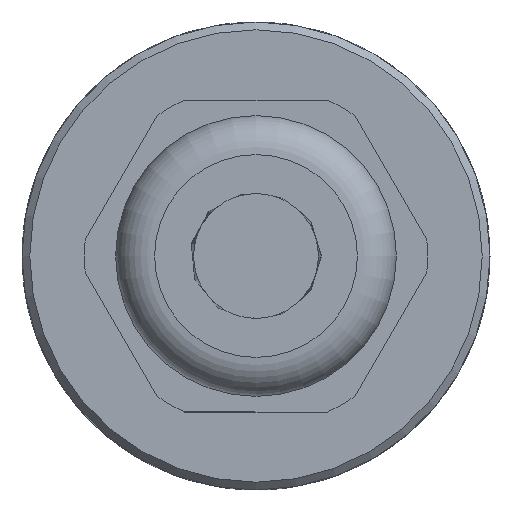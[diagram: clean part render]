
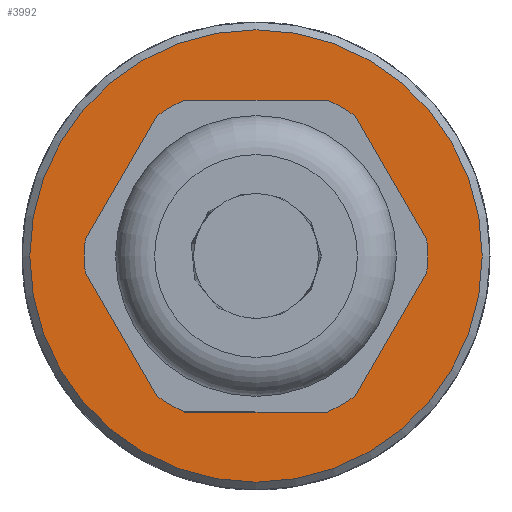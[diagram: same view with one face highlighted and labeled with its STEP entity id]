
A CAD part, left-side view. The second image highlights one B-rep face of the part: STEP entity #3992.
In plain terms, the highlighted planar face has unit normal (-1, 0, 0).
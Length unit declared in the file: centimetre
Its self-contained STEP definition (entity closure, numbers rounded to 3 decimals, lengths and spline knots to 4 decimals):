
#687=PLANE('',#4242);
#1432=VERTEX_POINT('',#5373);
#1545=VERTEX_POINT('',#5835);
#1769=CIRCLE('',#4150,0.7188);
#1797=CIRCLE('',#4238,1.45);
#1889=EDGE_CURVE('',#1432,#1432,#1769,.T.);
#2053=EDGE_CURVE('',#1545,#1545,#1797,.T.);
#2770=ORIENTED_EDGE('',*,*,#1889,.T.);
#2771=ORIENTED_EDGE('',*,*,#2053,.F.);
#3525=EDGE_LOOP('',(#2770));
#3526=EDGE_LOOP('',(#2771));
#3764=FACE_BOUND('',#3525,.T.);
#3765=FACE_BOUND('',#3526,.T.);
#3992=ADVANCED_FACE('',(#3764,#3765),#687,.T.);
#4150=AXIS2_PLACEMENT_3D('',#5372,#4466,#4467);
#4238=AXIS2_PLACEMENT_3D('',#5834,#4722,#4723);
#4242=AXIS2_PLACEMENT_3D('',#5848,#4730,$);
#4466=DIRECTION('',(1.,0.,0.));
#4467=DIRECTION('',(0.,0.,0.719));
#4722=DIRECTION('',(1.,0.,0.));
#4723=DIRECTION('',(0.,0.,1.45));
#4730=DIRECTION('',(-1.,0.,0.));
#5372=CARTESIAN_POINT('',(0.,0.,0.));
#5373=CARTESIAN_POINT('',(0.,0.,0.7188));
#5834=CARTESIAN_POINT('',(0.,0.,0.));
#5835=CARTESIAN_POINT('',(0.,0.,-1.45));
#5848=CARTESIAN_POINT('',(0.,0.,-0.75));
